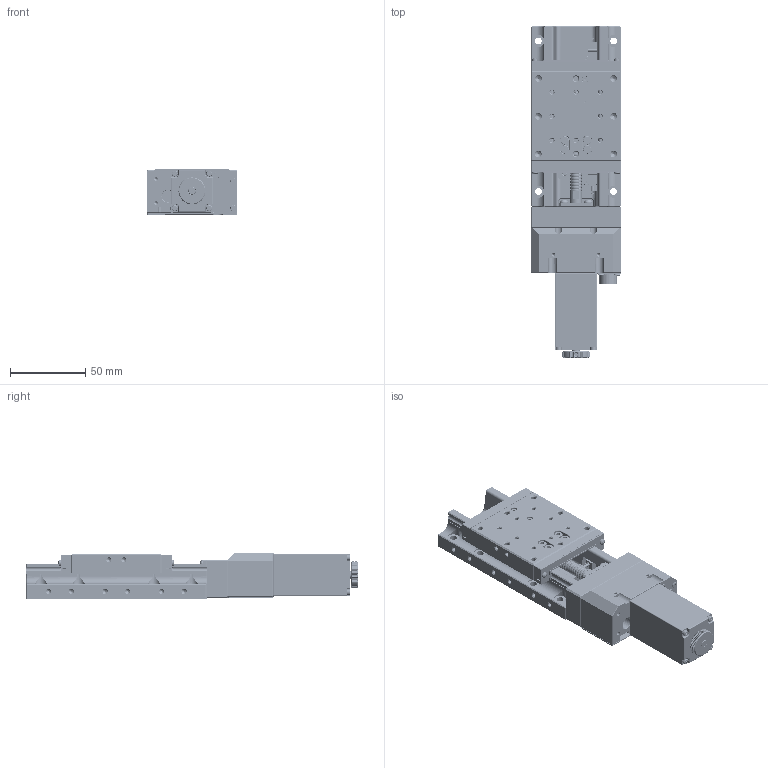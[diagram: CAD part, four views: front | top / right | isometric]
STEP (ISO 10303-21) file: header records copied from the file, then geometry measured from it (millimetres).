
FILE_DESCRIPTION (( 'STEP AP214' ), '1' );
FILE_NAME ('TXG6030B-L2-M28.STEP', '2025-01-03T08:54:04', ( '' ), ( '' ), 'SwSTEP 2.0', 'SolidWorks 2020', '' );
FILE_SCHEMA (( 'AUTOMOTIVE_DESIGN' ));
Length unit declared in the file: millimetre
Products named in the file (1): TXG6030B-L2-M28
Bounding box: 60 x 220.5 x 30.5 mm (x, y, z)
Volume: 220140.3 mm3; surface area: 120118.6 mm2
Topology: 206 solids, 222 shells, 4495 faces, 11384 edges, 7147 vertices
Faces by surface type: plane 1883, cylinder 1287, cone 703, torus 268, sphere 262, bspline 92
Entity records: 210769 total; most frequent: CARTESIAN_POINT 54527, DIRECTION 22053, ORIENTED_EDGE 21298, EDGE_CURVE 10649, AXIS2_PLACEMENT_3D 8198, VERTEX_POINT 6804, LINE 5657, VECTOR 5657
